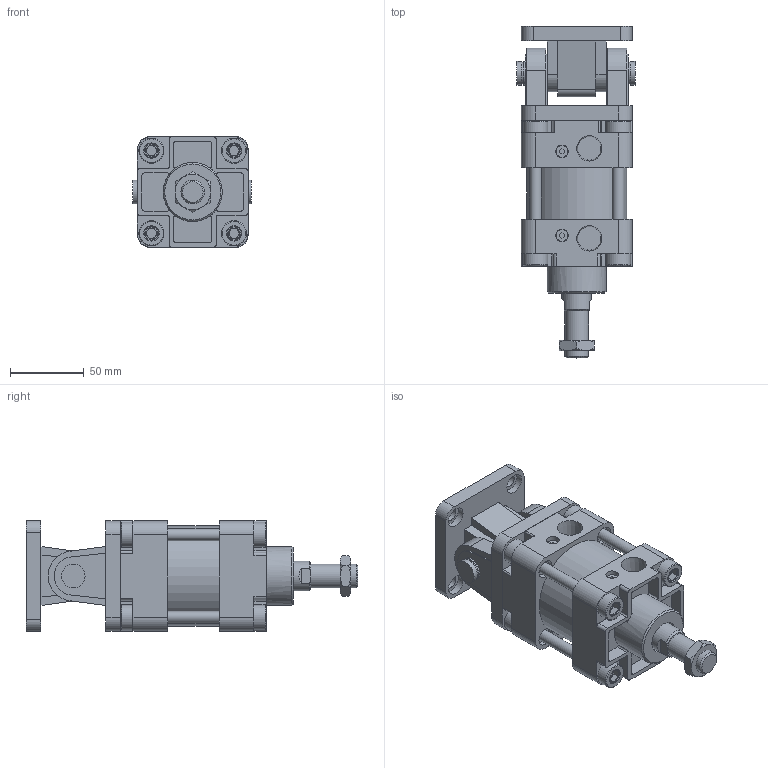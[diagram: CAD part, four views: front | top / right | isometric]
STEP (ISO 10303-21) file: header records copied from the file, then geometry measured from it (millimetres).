
FILE_DESCRIPTION(/* description */ ('Unknown'),/* implementation_level */ '2;1');
FILE_NAME(/* name */ 'WA63-0-CD',/* time_stamp */ '2026-07-17T16:53:54+08:00',/* author */ ('Unknown'),/* organization */ ('Unknown'),/* preprocessor_version */ 'ST-DEVELOPER v16.7',/* originating_system */ 'DEX',/* authorisation */ $);
FILE_SCHEMA (('CONFIG_CONTROL_DESIGN'));
Length unit declared in the file: millimetre
Products named in the file (10): WA63-0-CD; WA63_後; WA63_心軸活ionRefs; WA63_鋁; WA63_前; WA63_CA; WA63_CBP; WA63_T帽牙T; WA63_CB; M16-1.5P-8_螺
Assembly tree (12 placements, depth 2):
  WA63-0-CD
    WA63_後
    WA63_心軸活ionRefs
    WA63_鋁
    WA63_前
    WA63_CA
    WA63_CBP
    WA63_T帽牙T  x4
    WA63_CB
    M16-1.5P-8_螺
Bounding box: 80 x 225 x 75 mm (x, y, z)
Volume: 647736.1 mm3; surface area: 163320.6 mm2
Topology: 12 solids, 12 shells, 461 faces, 1131 edges, 766 vertices
Faces by surface type: plane 262, cylinder 162, cone 29, torus 8
Full cylindrical faces by diameter (mm): 6.8 x8, 8 x6, 8.5 x2, 9 x8, 12 x8, 12.5 x8, 14 x8, 14.5 x1, 14.8 x2, 15.806 x2, 16 x7, 17 x8, 20 x2, 40 x1, 62.5 x1, 63 x3, 68 x1
Entity records: 12365 total; most frequent: CARTESIAN_POINT 1893, DIRECTION 1836, ORIENTED_EDGE 1630, EDGE_CURVE 815, AXIS2_PLACEMENT_3D 688, VERTEX_POINT 585, EDGE_LOOP 508, FACE_BOUND 508
